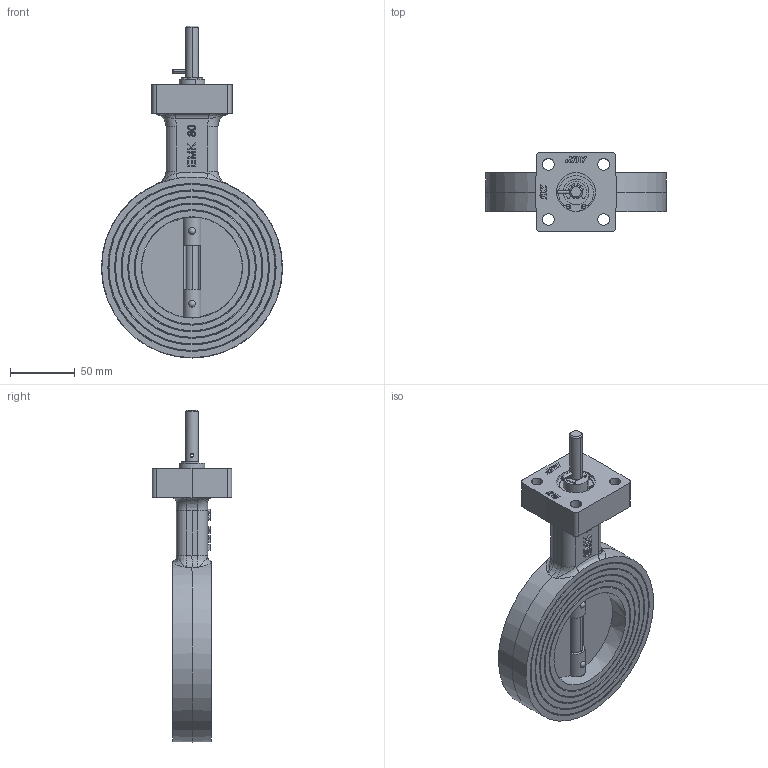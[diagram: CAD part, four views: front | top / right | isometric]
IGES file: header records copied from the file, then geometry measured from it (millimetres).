
Global section: file name: No Iges File Name specified; native system: AutoDesk Inventor R12.0; preprocessor: AutoDesk Inventor Iges Exporter R12.0; date: 20100819.145405; units: millimetre
Bounding box: 139.58 x 61 x 255.81 mm (x, y, z)
Volume: 455483.3 mm3; surface area: 82289.1 mm2
Topology: 1 solids, 1 shells, 408 faces, 1076 edges, 683 vertices
Faces by surface type: plane 175, bspline 84, cylinder 57, revolution 52, cone 32, sphere 4, torus 4
